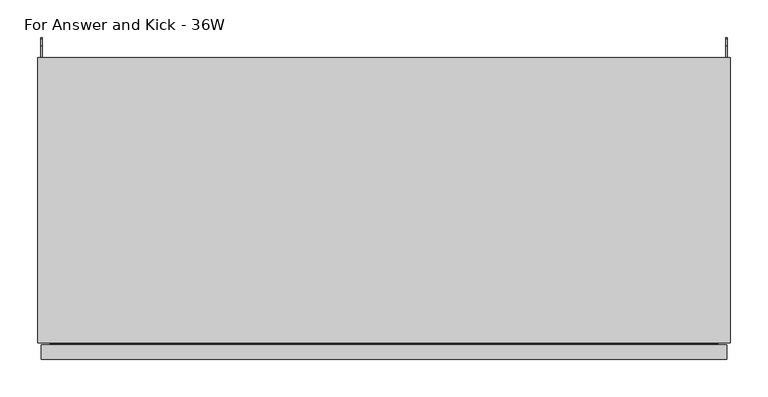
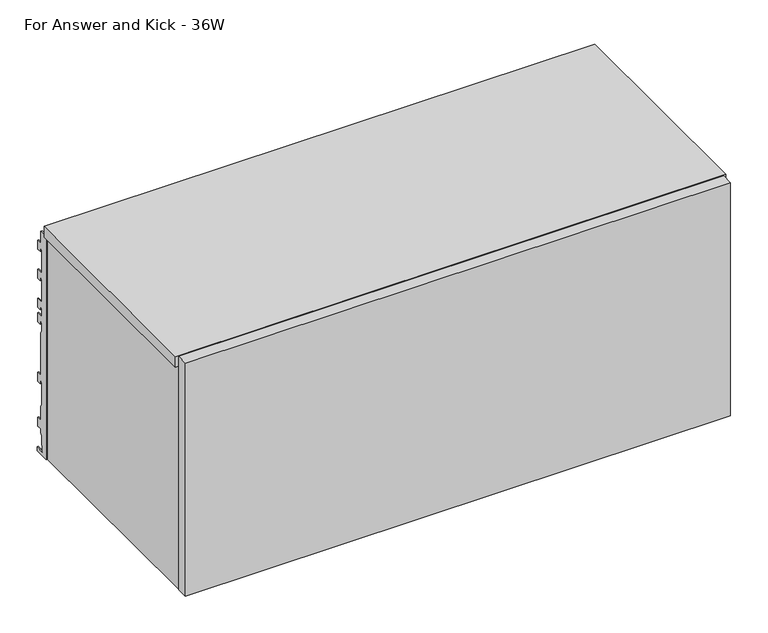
"""IFC4 building model written with IfcOpenShell, lengths in millimetres: furniture geometry, Steelcase - Universal Storage - Over the Case Bin - Flat Front : For Answer and Kick - 36W."""

import ifcopenshell
import ifcopenshell.guid

model = None  # the IFC model being written
_history = None  # IfcOwnerHistory: only IFC2X3 demands one
_inside = {}  # id of a spatial element -> (the spatial element, [elements in it])
_under = {}  # id of a project, library or spatial element -> (it, [spatial elements below it])
_declared = {}  # id of a project -> (the project, [libraries it declares])
_typed = {}  # id of a type object -> (the type object, [elements of that type])
_made_of = {}  # id of a material, layer set ... -> (it, [elements and type objects made of it])


def new_model(schema):
    """Start an empty IFC model of exactly this schema.

    Asked for "IFC4X3", IfcOpenShell would pick the latest addendum, in which some entities
    have other attributes; the version numbers below select the first issue.
    IFC2X3 requires an IfcOwnerHistory on every rooted entity: one is made here for all.
    """
    global model, _history
    if schema == "IFC4X3":
        model = ifcopenshell.file(schema_version=(4, 3, 0, 0))
    else:
        model = ifcopenshell.file(schema=schema)
    _inside.clear()
    _under.clear()
    _declared.clear()
    _typed.clear()
    _made_of.clear()
    _history = None
    if model.schema == "IFC2X3":
        org = make("IfcOrganization", Name="unknown")
        user = make(
            "IfcPersonAndOrganization",
            ThePerson=make("IfcPerson", FamilyName="unknown"),
            TheOrganization=org,
        )
        app = make(
            "IfcApplication",
            ApplicationDeveloper=org,
            Version="unknown",
            ApplicationFullName="unknown",
            ApplicationIdentifier="unknown",
        )
        _history = make(
            "IfcOwnerHistory",
            OwningUser=user,
            OwningApplication=app,
            ChangeAction="ADDED",
            CreationDate=0,
        )
    return model


def make(cls, **values):
    """One entity of the class cls with the attributes given. An attribute that is None is left unset."""
    return model.create_entity(
        cls, **{name: value for name, value in values.items() if value is not None}
    )


def rooted(cls, **values):
    """An entity with a GlobalId (a new one), such as an element, a storey or a relation."""
    return make(cls, GlobalId=ifcopenshell.guid.new(), OwnerHistory=_history, **values)


def si_unit(unit_type, name, prefix=None):
    """IfcSIUnit, for example si_unit("LENGTHUNIT", "METRE", prefix="MILLI")."""
    return make("IfcSIUnit", UnitType=unit_type, Prefix=prefix, Name=name)


def assignment(units):
    """IfcUnitAssignment: the units of a project."""
    return None if units is None else make("IfcUnitAssignment", Units=units)


def point(xyz):
    """IfcCartesianPoint."""
    return None if xyz is None else make("IfcCartesianPoint", Coordinates=xyz)


def direction(xyz):
    """IfcDirection."""
    return None if xyz is None else make("IfcDirection", DirectionRatios=xyz)


def frame(location, z_axis=None, x_axis=None):
    """IfcAxis2Placement3D, a coordinate frame: its origin and axes. An axis left out is left unset."""
    return make(
        "IfcAxis2Placement3D",
        Location=point(location),
        Axis=direction(z_axis),
        RefDirection=direction(x_axis),
    )


def origin():
    """The frame at (0, 0, 0) with its axes left unset."""
    return frame((0.0, 0.0, 0.0))


def place(relative_to, where):
    """IfcLocalPlacement: puts the frame where relative to a parent placement (None: the world)."""
    return make(
        "IfcLocalPlacement", PlacementRelTo=relative_to, RelativePlacement=where
    )


def context(
    kind, dimensions, precision=None, world=None, true_north=None, identifier=None
):
    """IfcGeometricRepresentationContext, for example the 3D "Model" context."""
    return make(
        "IfcGeometricRepresentationContext",
        ContextIdentifier=identifier,
        ContextType=kind,
        CoordinateSpaceDimension=dimensions,
        Precision=precision,
        WorldCoordinateSystem=world,
        TrueNorth=true_north,
    )


def project(units=None, contexts=None):
    """IfcProject with its units and contexts."""
    return rooted(
        "IfcProject",
        Name="project",
        RepresentationContexts=contexts,
        UnitsInContext=assignment(units),
    )


def spatial(cls, under=None, at=None, **own):
    """A site, building, storey or space (cls), placed at a placement, below another one or the project."""
    s = rooted(cls, ObjectPlacement=at, **own)
    if under is not None:
        _under.setdefault(under.id(), (under, []))[1].append(s)
    return s


def polyline(points):
    """IfcPolyline through the points."""
    return make("IfcPolyline", Points=[point(p) for p in points])


def outline(outer, holes=None, kind="AREA"):
    """IfcArbitraryClosedProfileDef: a profile drawn as a closed curve; with holes, ...WithVoids."""
    if holes is None:
        return make("IfcArbitraryClosedProfileDef", ProfileType=kind, OuterCurve=outer)
    return make(
        "IfcArbitraryProfileDefWithVoids",
        ProfileType=kind,
        OuterCurve=outer,
        InnerCurves=holes,
    )


def extrude(swept, where, along, depth):
    """IfcExtrudedAreaSolid: the profile swept, set in the frame where, extruded along a direction by depth."""
    return make(
        "IfcExtrudedAreaSolid",
        SweptArea=swept,
        Position=where,
        ExtrudedDirection=direction(along),
        Depth=depth,
    )


def shape(context_of_items, identifier, shape_type, items):
    """IfcShapeRepresentation: the items that make up one representation, for example the "Body"."""
    return make(
        "IfcShapeRepresentation",
        ContextOfItems=context_of_items,
        RepresentationIdentifier=identifier,
        RepresentationType=shape_type,
        Items=items,
    )


def source(mapping_origin, context_of_items, identifier, shape_type, items):
    """IfcRepresentationMap: a shape defined once, which mapped items show again and again."""
    return make(
        "IfcRepresentationMap",
        MappingOrigin=mapping_origin,
        MappedRepresentation=shape(context_of_items, identifier, shape_type, items),
    )


def transform(
    local_origin,
    x_axis=None,
    y_axis=None,
    z_axis=None,
    scale=None,
    scale2=None,
    scale3=None,
    uniform=True,
):
    """IfcCartesianTransformationOperator3D, or its non-uniform kind. x_axis, y_axis, z_axis: its Axis1, 2, 3."""
    if uniform:
        return make(
            "IfcCartesianTransformationOperator3D",
            Axis1=direction(x_axis),
            Axis2=direction(y_axis),
            LocalOrigin=point(local_origin),
            Scale=scale,
            Axis3=direction(z_axis),
        )
    return make(
        "IfcCartesianTransformationOperator3DnonUniform",
        Axis1=direction(x_axis),
        Axis2=direction(y_axis),
        LocalOrigin=point(local_origin),
        Scale=scale,
        Axis3=direction(z_axis),
        Scale2=scale2,
        Scale3=scale3,
    )


def mapped(mapping_source, mapping_target):
    """IfcMappedItem: shows the shape of a source again, moved by a transform."""
    return make(
        "IfcMappedItem", MappingSource=mapping_source, MappingTarget=mapping_target
    )


def made_of(thing, what):
    """Note that an element or type object is made of a material, layer set ...; save() writes the relation."""
    if what is not None:
        _made_of.setdefault(what.id(), (what, []))[1].append(thing)
    return thing


def element(
    cls,
    number,
    at=None,
    inside=None,
    cuts=None,
    type_object=None,
    material=None,
    context=None,
    identifier="Body",
    shape_type=None,
    held_by="IfcProductDefinitionShape",
    body=None,
    shapes=None,
    **own,
):
    """One element of the class cls, such as IfcWall. Its Tag is "e" and its number.

    at: its placement. inside: the storey or other place that contains it. cuts: it is an
    opening in that element (IfcRelVoidsElement). A single representation is given by context,
    identifier, shape_type and body (its items); several are given by shapes. held_by: the class
    of the entity that holds the representations. save() writes the other relations.
    """
    e = rooted(cls, Tag="e%d" % number, ObjectPlacement=at, **own)
    if body is not None:
        shapes = [shape(context, identifier, shape_type, body)]
    if shapes is not None:
        e.Representation = make(held_by, Representations=shapes)
    if inside is not None:
        _inside.setdefault(inside.id(), (inside, []))[1].append(e)
    if cuts is not None:
        rooted(
            "IfcRelVoidsElement", RelatingBuildingElement=cuts, RelatedOpeningElement=e
        )
    if type_object is not None:
        _typed.setdefault(type_object.id(), (type_object, []))[1].append(e)
    return made_of(e, material)


def aggregate(whole, parts):
    """IfcRelAggregates: a whole, such as a stair, and the parts it consists of."""
    return rooted("IfcRelAggregates", RelatingObject=whole, RelatedObjects=parts)


def save(model, path):
    """Write the relations noted so far, then the file.

    IfcRelAggregates (storeys below a building ...), IfcRelContainedInSpatialStructure (elements
    in a storey), IfcRelDefinesByType, IfcRelAssociatesMaterial and IfcRelDeclares: one each for
    every whole, place, type object, material and project.
    """
    for whole, parts in _under.values():
        aggregate(whole, parts)
    for where, things in _inside.values():
        rooted(
            "IfcRelContainedInSpatialStructure",
            RelatedElements=things,
            RelatingStructure=where,
        )
    for kind, things in _typed.values():
        rooted("IfcRelDefinesByType", RelatedObjects=things, RelatingType=kind)
    for what, things in _made_of.values():
        rooted("IfcRelAssociatesMaterial", RelatedObjects=things, RelatingMaterial=what)
    for by, libraries in _declared.values():
        rooted("IfcRelDeclares", RelatingContext=by, RelatedDefinitions=libraries)
    model.write(path)


def for_answer_and_kick_36w_f89d1474(model_context):
    return source(origin(), model_context, "Body", "SweptSolid", [
        extrude(outline(polyline([(0.0, 1657.096), (15.428165, 1657.096), (15.428165, 1635.9725192), (24.6737648, 1635.9725192), (24.6737648, 1620.2499324), (17.7141651, 1620.2499324), (17.7141651, 1627.4034202), (15.428165, 1627.4034202), (13.3707653, 1623.8398995), (13.3707653, 1584.7332049), (24.4959651, 1584.7332049), (24.4959651, 1569.0106181), (17.7141651, 1569.0106181), (17.7141651, 1576.1734076), (15.428165, 1576.1734076), (13.3707653, 1572.6099624), (13.3707653, 1533.4938907), (24.6737648, 1533.4938907), (24.6737648, 1517.7713038), (17.5768, 1517.7713038), (17.5768, 1524.9340934), (15.4248855, 1524.9340934), (13.3349998, 1521.3219111), (13.3349998, 1508.4166423), (24.6737648, 1508.4166423), (24.6737648, 1492.6940555), (17.5768, 1492.6940555), (17.5768, 1499.856845), (15.4205129, 1499.856845), (13.3933344, 1496.3530466), (13.3933344, 1483.6530466), (15.428165, 1479.2893385), (15.428165, 1403.8551467), (24.6737648, 1403.8551467), (24.6737648, 1388.1325599), (17.7141651, 1388.1325599), (17.7141651, 1395.2982562), (15.428165, 1395.2982562), (13.3306079, 1391.6651808), (13.3306079, 1353.5651808), (15.428165, 1349.9321054), (15.428165, 1325.1000701), (24.6737648, 1325.1000701), (24.6737648, 1309.3774833), (17.7141651, 1309.3774833), (17.7141651, 1316.5328605), (15.428165, 1316.5328605), (15.428165, 1303.5355433), (13.2046809, 1299.684356), (13.2046809, 1282.9679719), (11.2879653, 1282.9679719), (11.2879653, 1271.9303504), (26.4009645, 1271.9303504), (26.4009645, 1265.428), (0.0, 1265.428), (0.0, 1657.096)])), frame((908.8882, 0.0, 0.0), z_axis=(1.0, 0.0, 0.0), x_axis=(0.0, 1.0, 0.0)), (0.0, 0.0, 1.0), 1.905),
        extrude(outline(polyline([(0.0, 1657.096), (15.428165, 1657.096), (15.428165, 1635.9725192), (24.6737648, 1635.9725192), (24.6737648, 1620.2499324), (17.7141651, 1620.2499324), (17.7141651, 1627.4034202), (15.428165, 1627.4034202), (13.3707653, 1623.8398995), (13.3707653, 1584.7332049), (24.4959651, 1584.7332049), (24.4959651, 1569.0106181), (17.7141651, 1569.0106181), (17.7141651, 1576.1734076), (15.428165, 1576.1734076), (13.3707653, 1572.6099624), (13.3707653, 1533.4938907), (24.6737648, 1533.4938907), (24.6737648, 1517.7713038), (17.5768, 1517.7713038), (17.5768, 1524.9340934), (15.4248855, 1524.9340934), (13.3349998, 1521.3219111), (13.3349998, 1508.4166423), (24.6737648, 1508.4166423), (24.6737648, 1492.6940555), (17.5768, 1492.6940555), (17.5768, 1499.856845), (15.4205129, 1499.856845), (13.3933344, 1496.3530466), (13.3933344, 1483.6530466), (15.428165, 1479.2893385), (15.428165, 1403.8551467), (24.6737648, 1403.8551467), (24.6737648, 1388.1325599), (17.7141651, 1388.1325599), (17.7141651, 1395.2982562), (15.428165, 1395.2982562), (13.3306079, 1391.6651808), (13.3306079, 1353.5651808), (15.428165, 1349.9321054), (15.428165, 1325.1000701), (24.6737648, 1325.1000701), (24.6737648, 1309.3774833), (17.7141651, 1309.3774833), (17.7141651, 1316.5328605), (15.428165, 1316.5328605), (15.428165, 1303.5355433), (13.2046809, 1299.684356), (13.2046809, 1282.9679719), (11.2879653, 1282.9679719), (11.2879653, 1271.9303504), (26.4009645, 1271.9303504), (26.4009645, 1265.428), (0.0, 1265.428), (0.0, 1657.096)])), frame((3.6068, 0.0, 0.0), z_axis=(1.0, 0.0, 0.0), x_axis=(0.0, 1.0, 0.0)), (0.0, 0.0, 1.0), 1.905),
        extrude(outline(polyline([(4.4448587, -379.476), (909.9703, -379.476), (909.9703, -398.526), (4.4448587, -398.526), (4.4448587, -379.476)])), frame((0.0, 0.0, 1266.8226746), z_axis=(0.0, 0.0, 1.0), x_axis=(1.0, 0.0, 0.0)), (0.0, 0.0, 1.0), 409.5773254),
        extrude(outline(polyline([(914.4, -377.213238), (0.0, -377.213238), (0.0, 0.0), (914.4, 0.0), (914.4, -377.213238)])), frame((0.0, 0.0, 1657.35), z_axis=(0.0, 0.0, 1.0), x_axis=(1.0, 0.0, 0.0)), (0.0, 0.0, 1.0), 19.05),
        extrude(outline(polyline([(15.875, -377.213238), (5.5118, -377.213238), (5.5118, 0.0), (15.875, 0.0), (15.875, -377.213238)])), frame((0.0, 0.0, 1265.428), z_axis=(0.0, 0.0, 1.0), x_axis=(1.0, 0.0, 0.0)), (0.0, 0.0, 1.0), 391.6679457),
        extrude(outline(polyline([(913.2568665, -377.213238), (898.525, -377.213238), (898.525, 0.0), (913.2568665, 0.0), (913.2568665, -377.213238)])), frame((0.0, 0.0, 1265.428), z_axis=(0.0, 0.0, 1.0), x_axis=(1.0, 0.0, 0.0)), (0.0, 0.0, 1.0), 391.6679457),
        extrude(outline(polyline([(-35.4584098, 1372.819257), (-27.0763996, 1372.819257), (-27.0763996, 1360.1191601), (-33.4264117, 1360.1191601), (-33.4264117, 1323.1622589), (-27.0763996, 1323.1622589), (-27.0763996, 1265.428), (-35.4584098, 1265.428), (-35.4584098, 1293.054213), (-46.1263996, 1293.054213), (-46.1263996, 1268.1875622), (-59.9694137, 1268.1875622), (-59.9694137, 1294.8575912), (-332.8542818, 1294.8575912), (-332.8542818, 1268.1875622), (-377.3042823, 1268.1875622), (-377.3042823, 1310.7072052), (-35.4584098, 1310.7072052), (-35.4584098, 1372.819257)])), frame((15.875, 0.0, 0.0), z_axis=(1.0, 0.0, 0.0), x_axis=(0.0, 1.0, 0.0)), (0.0, 0.0, 1.0), 882.65),
    ])


if __name__ == "__main__":
    model = new_model("IFC4")
    model_context = context("Model", 3, world=origin())
    ifc_project = project(units=[si_unit("LENGTHUNIT", "METRE", prefix="MILLI")], contexts=[model_context])
    site = spatial("IfcSite", under=ifc_project)
    building = spatial("IfcBuilding", under=site)
    placement = place(None, origin())
    for_answer_and_kick_36w_shape = for_answer_and_kick_36w_f89d1474(model_context)
    element("IfcFurniture", 1, ObjectType="Steelcase - Universal Storage - Over the Case Bin - Flat Front : For Answer and Kick - 36W", at=placement, inside=building, context=model_context, shape_type="MappedRepresentation", body=[
        mapped(for_answer_and_kick_36w_shape, transform((0.0, 0.0, 0.0), x_axis=(1.0, 0.0, 0.0), y_axis=(0.0, 1.0, 0.0), z_axis=(0.0, 0.0, 1.0))),
    ])
    save(model, "model.ifc")
